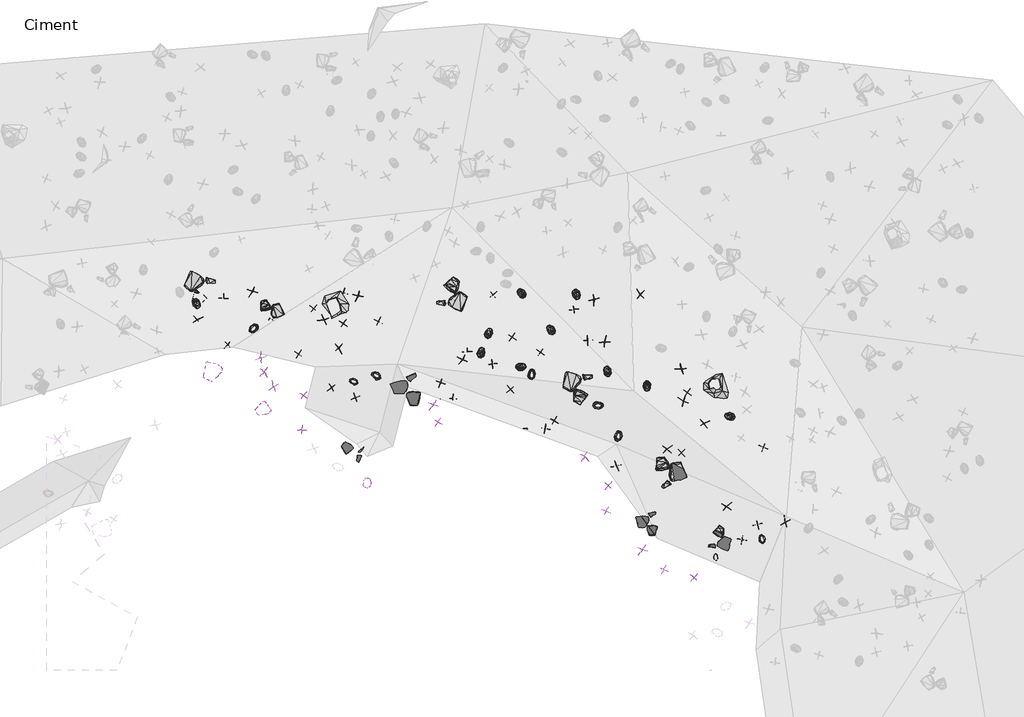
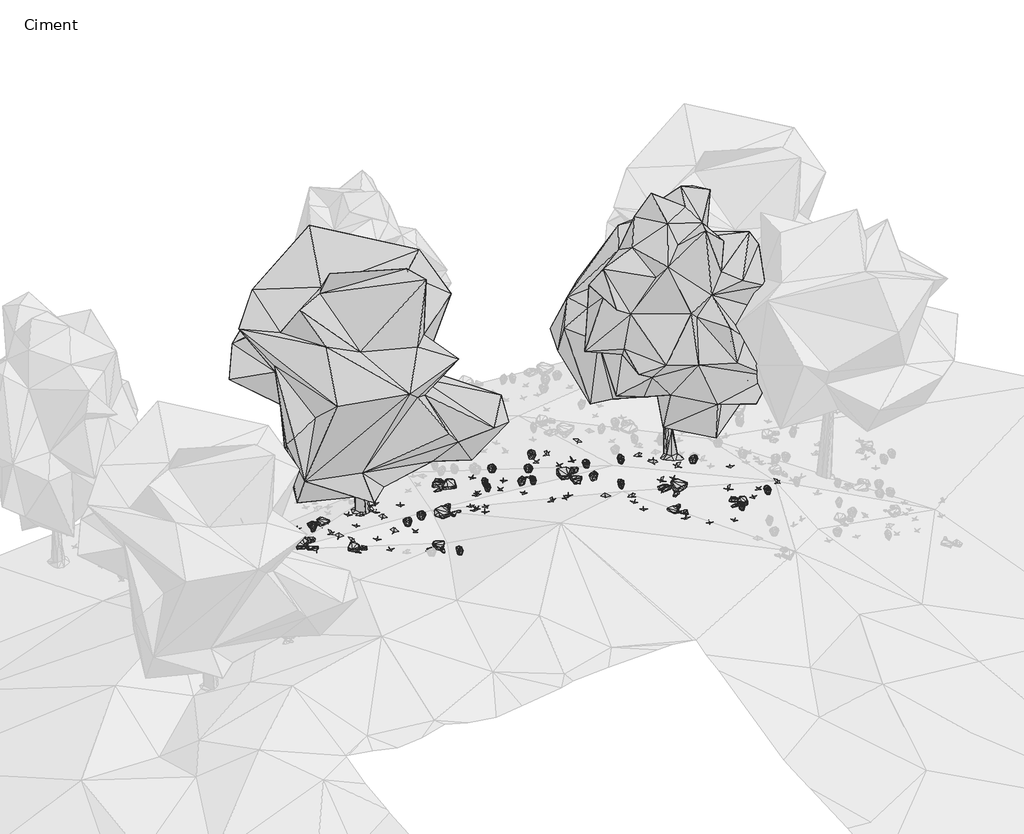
# One storey, part 25 of 30: 89 geographic elements.
"""IFC4 building model written with IfcOpenShell, lengths in millimetres."""

from ifc_helpers import new_model, si_unit, origin, place, context, project, spatial, transform, mapped, element, save
from components import enscape_assetdefinition_bush_025_fern_enscape_5718bf32, enscape_assetdefinition_bush_054_plant_09_version_2_enscape_7b546a12, enscape_assetdefinition_bush_062_plant_09_version_3_enscape_ccf8c8eb, enscape_assetdefinition_deciduous_tree_024_elm_enscape_8f9d8ef3, enscape_assetdefinition_deciduous_tree_029_elm_enscape_e4c49baf, enscape_assetdefinition_stone_013_group_enscape_516da325, enscape_assetdefinition_stone_013_group_enscape_db9b3e91

model = new_model("IFC4")

# Units and contexts
model_context = context("Model", 3, world=origin())
ifc_project = project(units=[si_unit("LENGTHUNIT", "METRE", prefix="MILLI")], contexts=[model_context])

# Site, building, storey
site = spatial("IfcSite", under=ifc_project)
building = spatial("IfcBuilding", under=site)
storey = spatial("IfcBuildingStorey", under=building, Name="Ciment", Elevation=-1500.0)

# Geographic elements
placement = place(None, origin())
enscape_assetdefinition_bush_025_fern_enscape_shape = enscape_assetdefinition_bush_025_fern_enscape_5718bf32(model_context)
element("IfcGeographicElement", 1, ObjectType="Enscape AssetDefinition - Bush 025 Fern : Enscape AssetDefinition - Bush 025 Fern", at=placement, inside=storey, context=model_context, shape_type="MappedRepresentation", body=[
    mapped(enscape_assetdefinition_bush_025_fern_enscape_shape, transform((7589.7655487, 14292.3851013, -694.9532032), x_axis=(0.09851831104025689, 0.9951352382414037, 0.0), y_axis=(-0.9951352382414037, 0.09851831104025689, 0.0), z_axis=(0.0, 0.0, 1.0))),
])
element("IfcGeographicElement", 2, ObjectType="Enscape AssetDefinition - Bush 025 Fern : Enscape AssetDefinition - Bush 025 Fern", at=placement, inside=storey, context=model_context, shape_type="MappedRepresentation", body=[
    mapped(enscape_assetdefinition_bush_025_fern_enscape_shape, transform((13640.039444, 9015.0632858, -316.6663647), x_axis=(-0.12648379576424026, 0.9919686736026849, 0.0), y_axis=(-0.9919686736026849, -0.12648379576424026, 0.0), z_axis=(0.0, 0.0, 1.0))),
])
element("IfcGeographicElement", 3, ObjectType="Enscape AssetDefinition - Bush 025 Fern : Enscape AssetDefinition - Bush 025 Fern", at=placement, inside=storey, context=model_context, shape_type="MappedRepresentation", body=[
    mapped(enscape_assetdefinition_bush_025_fern_enscape_shape, transform((4648.8132477, 10932.4960709, -27.317524), x_axis=(-0.11346638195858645, 0.9935418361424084, 0.0), y_axis=(-0.9935418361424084, -0.11346638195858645, 0.0), z_axis=(0.0, 0.0, 1.0))),
])
element("IfcGeographicElement", 4, ObjectType="Enscape AssetDefinition - Bush 025 Fern : Enscape AssetDefinition - Bush 025 Fern", at=placement, inside=storey, context=model_context, shape_type="MappedRepresentation", body=[
    mapped(enscape_assetdefinition_bush_025_fern_enscape_shape, transform((7789.2131805, 14791.4638519, -881.513238), x_axis=(0.2730954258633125, 0.9619869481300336, 0.0), y_axis=(-0.9619869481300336, 0.2730954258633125, 0.0), z_axis=(0.0, 0.0, 1.0))),
])
element("IfcGeographicElement", 5, ObjectType="Enscape AssetDefinition - Bush 025 Fern : Enscape AssetDefinition - Bush 025 Fern", at=placement, inside=storey, context=model_context, shape_type="MappedRepresentation", body=[
    mapped(enscape_assetdefinition_bush_025_fern_enscape_shape, transform((8618.7496185, 13920.3662872, -604.5726538), x_axis=(0.9697155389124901, 0.24423712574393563, 0.0), y_axis=(-0.24423712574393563, 0.9697155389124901, 0.0), z_axis=(0.0, 0.0, 1.0))),
])
element("IfcGeographicElement", 6, ObjectType="Enscape AssetDefinition - Bush 025 Fern : Enscape AssetDefinition - Bush 025 Fern", at=placement, inside=storey, context=model_context, shape_type="MappedRepresentation", body=[
    mapped(enscape_assetdefinition_bush_025_fern_enscape_shape, transform((4291.5439606, 13543.7164307, -402.7612209), x_axis=(-0.944301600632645, 0.32908127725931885, 0.0), y_axis=(-0.32908127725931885, -0.944301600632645, 0.0), z_axis=(0.0, 0.0, 1.0))),
])
element("IfcGeographicElement", 7, ObjectType="Enscape AssetDefinition - Bush 025 Fern : Enscape AssetDefinition - Bush 025 Fern", at=placement, inside=storey, context=model_context, shape_type="MappedRepresentation", body=[
    mapped(enscape_assetdefinition_bush_025_fern_enscape_shape, transform((8893.7168121, 13736.1078262, -550.1061678), x_axis=(0.017206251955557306, 0.9998519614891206, 0.0), y_axis=(-0.9998519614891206, 0.017206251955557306, 0.0), z_axis=(0.0, 0.0, 1.0))),
])
element("IfcGeographicElement", 8, ObjectType="Enscape AssetDefinition - Bush 025 Fern : Enscape AssetDefinition - Bush 025 Fern", at=placement, inside=storey, context=model_context, shape_type="MappedRepresentation", body=[
    mapped(enscape_assetdefinition_bush_025_fern_enscape_shape, transform((10611.6847992, 12921.5192795, -499.9998808), x_axis=(0.9974274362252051, 0.07168339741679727, 0.0), y_axis=(-0.07168339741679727, 0.9974274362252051, 0.0), z_axis=(0.0, 0.0, 1.0))),
])
element("IfcGeographicElement", 9, ObjectType="Enscape AssetDefinition - Bush 025 Fern : Enscape AssetDefinition - Bush 025 Fern", at=placement, inside=storey, context=model_context, shape_type="MappedRepresentation", body=[
    mapped(enscape_assetdefinition_bush_025_fern_enscape_shape, transform((13996.7298508, 12645.606041, -897.7286816), x_axis=(-0.9960835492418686, 0.08841698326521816, 0.0), y_axis=(-0.08841698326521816, -0.9960835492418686, 0.0), z_axis=(0.0, 0.0, 1.0))),
])
element("IfcGeographicElement", 10, ObjectType="Enscape AssetDefinition - Bush 025 Fern : Enscape AssetDefinition - Bush 025 Fern", at=placement, inside=storey, context=model_context, shape_type="MappedRepresentation", body=[
    mapped(enscape_assetdefinition_bush_025_fern_enscape_shape, transform((237.3542786, 15547.712326, -1001.2573004), x_axis=(0.49297649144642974, -0.870042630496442, 0.0), y_axis=(0.870042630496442, 0.49297649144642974, 0.0), z_axis=(0.0, 0.0, 1.0))),
])
element("IfcGeographicElement", 11, ObjectType="Enscape AssetDefinition - Bush 025 Fern : Enscape AssetDefinition - Bush 025 Fern", at=placement, inside=storey, context=model_context, shape_type="MappedRepresentation", body=[
    mapped(enscape_assetdefinition_bush_025_fern_enscape_shape, transform((9387.3577118, 14886.4269257, -981.5084934), x_axis=(-0.7025967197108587, 0.7115882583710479, 0.0), y_axis=(-0.7115882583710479, -0.7025967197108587, 0.0), z_axis=(0.0, 0.0, 1.0))),
])
element("IfcGeographicElement", 12, ObjectType="Enscape AssetDefinition - Bush 025 Fern : Enscape AssetDefinition - Bush 025 Fern", at=placement, inside=storey, context=model_context, shape_type="MappedRepresentation", body=[
    mapped(enscape_assetdefinition_bush_025_fern_enscape_shape, transform((14832.1781158, 9485.0530624, -415.0358438), x_axis=(-0.2552962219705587, 0.9668628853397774, 0.0), y_axis=(-0.9668628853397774, -0.2552962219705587, 0.0), z_axis=(0.0, 0.0, 1.0))),
])
element("IfcGeographicElement", 13, ObjectType="Enscape AssetDefinition - Bush 025 Fern : Enscape AssetDefinition - Bush 025 Fern", at=placement, inside=storey, context=model_context, shape_type="MappedRepresentation", body=[
    mapped(enscape_assetdefinition_bush_025_fern_enscape_shape, transform((1710.3881836, 14913.8298035, -541.7901278), x_axis=(-0.6577944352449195, -0.7531975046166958, 0.0), y_axis=(0.7531975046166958, -0.6577944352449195, 0.0), z_axis=(0.0, 0.0, 1.0))),
])
element("IfcGeographicElement", 14, ObjectType="Enscape AssetDefinition - Bush 025 Fern : Enscape AssetDefinition - Bush 025 Fern", at=placement, inside=storey, context=model_context, shape_type="MappedRepresentation", body=[
    mapped(enscape_assetdefinition_bush_025_fern_enscape_shape, transform((8627.664566, 15825.4947662, -1285.6221199), x_axis=(-0.7099960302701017, 0.7042056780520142, 0.0), y_axis=(-0.7042056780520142, -0.7099960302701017, 0.0), z_axis=(0.0, 0.0, 1.0))),
])
element("IfcGeographicElement", 15, ObjectType="Enscape AssetDefinition - Bush 025 Fern : Enscape AssetDefinition - Bush 025 Fern", at=placement, inside=storey, context=model_context, shape_type="MappedRepresentation", body=[
    mapped(enscape_assetdefinition_bush_025_fern_enscape_shape, transform((10040.8573151, 15785.0799561, -1236.7181778), x_axis=(0.4224905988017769, -0.90636730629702, 0.0), y_axis=(0.90636730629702, 0.4224905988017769, 0.0), z_axis=(0.0, 0.0, 1.0))),
])
element("IfcGeographicElement", 16, ObjectType="Enscape AssetDefinition - Bush 025 Fern : Enscape AssetDefinition - Bush 025 Fern", at=placement, inside=storey, context=model_context, shape_type="MappedRepresentation", body=[
    mapped(enscape_assetdefinition_bush_025_fern_enscape_shape, transform((10844.0494537, 13815.8960342, -659.2383385), x_axis=(-0.31124041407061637, 0.9503312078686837, 0.0), y_axis=(-0.9503312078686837, -0.31124041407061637, 0.0), z_axis=(0.0, 0.0, 1.0))),
])
element("IfcGeographicElement", 17, ObjectType="Enscape AssetDefinition - Bush 025 Fern : Enscape AssetDefinition - Bush 025 Fern", at=placement, inside=storey, context=model_context, shape_type="MappedRepresentation", body=[
    mapped(enscape_assetdefinition_bush_025_fern_enscape_shape, transform((4874.3686676, 13698.6455917, -455.0367594), x_axis=(-0.8581965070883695, 0.5133212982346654, 0.0), y_axis=(-0.5133212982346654, -0.8581965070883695, 0.0), z_axis=(0.0, 0.0, 1.0))),
])
element("IfcGeographicElement", 18, ObjectType="Enscape AssetDefinition - Bush 025 Fern : Enscape AssetDefinition - Bush 025 Fern", at=placement, inside=storey, context=model_context, shape_type="MappedRepresentation", body=[
    mapped(enscape_assetdefinition_bush_025_fern_enscape_shape, transform((11860.2962494, 13417.9868698, -616.1327362), x_axis=(0.10209197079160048, -0.9947749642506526, 0.0), y_axis=(0.9947749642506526, 0.10209197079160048, 0.0), z_axis=(0.0, 0.0, 1.0))),
])
element("IfcGeographicElement", 19, ObjectType="Enscape AssetDefinition - Bush 025 Fern : Enscape AssetDefinition - Bush 025 Fern", at=placement, inside=storey, context=model_context, shape_type="MappedRepresentation", body=[
    mapped(enscape_assetdefinition_bush_025_fern_enscape_shape, transform((11129.5261383, 12142.7249908, -499.9998808), x_axis=(0.1668868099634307, 0.9859760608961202, 0.0), y_axis=(-0.9859760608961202, 0.1668868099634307, 0.0), z_axis=(0.0, 0.0, 1.0))),
])
enscape_assetdefinition_bush_054_plant_09_version_2_enscape_shape = enscape_assetdefinition_bush_054_plant_09_version_2_enscape_7b546a12(model_context)
element("IfcGeographicElement", 20, ObjectType="Enscape AssetDefinition - Bush 054 Plant 09, Version 2 : Enscape AssetDefinition - Bush 054 Plant 09, Version 2", at=placement, inside=storey, context=model_context, shape_type="MappedRepresentation", body=[
    mapped(enscape_assetdefinition_bush_054_plant_09_version_2_enscape_shape, transform((6542.1276093, 13505.6858063, -467.0318365), x_axis=(0.2809636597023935, 0.9597184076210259, 0.0), y_axis=(-0.9597184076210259, 0.2809636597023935, 0.0), z_axis=(0.0, 0.0, 1.0))),
])
element("IfcGeographicElement", 21, ObjectType="Enscape AssetDefinition - Bush 054 Plant 09, Version 2 : Enscape AssetDefinition - Bush 054 Plant 09, Version 2", at=placement, inside=storey, context=model_context, shape_type="MappedRepresentation", body=[
    mapped(enscape_assetdefinition_bush_054_plant_09_version_2_enscape_shape, transform((4933.4125519, 15096.0016251, -836.8061781), x_axis=(-0.3785341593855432, -0.9255873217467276, 0.0), y_axis=(0.9255873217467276, -0.3785341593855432, 0.0), z_axis=(0.0, 0.0, 1.0))),
])
element("IfcGeographicElement", 22, ObjectType="Enscape AssetDefinition - Bush 054 Plant 09, Version 2 : Enscape AssetDefinition - Bush 054 Plant 09, Version 2", at=placement, inside=storey, context=model_context, shape_type="MappedRepresentation", body=[
    mapped(enscape_assetdefinition_bush_054_plant_09_version_2_enscape_shape, transform((13075.8190155, 8479.7544479, -238.6083603), x_axis=(0.7839510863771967, -0.6208225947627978, 0.0), y_axis=(0.6208225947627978, 0.7839510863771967, 0.0), z_axis=(0.0, 0.0, 1.0))),
])
element("IfcGeographicElement", 23, ObjectType="Enscape AssetDefinition - Bush 054 Plant 09, Version 2 : Enscape AssetDefinition - Bush 054 Plant 09, Version 2", at=placement, inside=storey, context=model_context, shape_type="MappedRepresentation", body=[
    mapped(enscape_assetdefinition_bush_054_plant_09_version_2_enscape_shape, transform((3260.6451511, 15430.6354523, -814.2061234), x_axis=(-0.5861582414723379, -0.8101965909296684, 0.0), y_axis=(0.8101965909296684, -0.5861582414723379, 0.0), z_axis=(0.0, 0.0, 1.0))),
])
element("IfcGeographicElement", 24, ObjectType="Enscape AssetDefinition - Bush 054 Plant 09, Version 2 : Enscape AssetDefinition - Bush 054 Plant 09, Version 2", at=placement, inside=storey, context=model_context, shape_type="MappedRepresentation", body=[
    mapped(enscape_assetdefinition_bush_054_plant_09_version_2_enscape_shape, transform((12302.816391, 8687.8404617, -182.1906567), x_axis=(-0.9374443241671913, 0.3481352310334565, 0.0), y_axis=(-0.3481352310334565, -0.9374443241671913, 0.0), z_axis=(0.0, 0.0, 1.0))),
])
element("IfcGeographicElement", 25, ObjectType="Enscape AssetDefinition - Bush 054 Plant 09, Version 2 : Enscape AssetDefinition - Bush 054 Plant 09, Version 2", at=placement, inside=storey, context=model_context, shape_type="MappedRepresentation", body=[
    mapped(enscape_assetdefinition_bush_054_plant_09_version_2_enscape_shape, transform((14727.4837494, 9851.307869, -447.4294186), x_axis=(-0.2820657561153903, 0.9593950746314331, 0.0), y_axis=(-0.9593950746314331, -0.2820657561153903, 0.0), z_axis=(0.0, 0.0, 1.0))),
])
element("IfcGeographicElement", 26, ObjectType="Enscape AssetDefinition - Bush 054 Plant 09, Version 2 : Enscape AssetDefinition - Bush 054 Plant 09, Version 2", at=placement, inside=storey, context=model_context, shape_type="MappedRepresentation", body=[
    mapped(enscape_assetdefinition_bush_054_plant_09_version_2_enscape_shape, transform((2871.2825775, 14246.80233, -376.1594296), x_axis=(0.8569529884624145, -0.5153945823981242, 0.0), y_axis=(0.5153945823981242, 0.8569529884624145, 0.0), z_axis=(0.0, 0.0, 1.0))),
])
element("IfcGeographicElement", 27, ObjectType="Enscape AssetDefinition - Bush 054 Plant 09, Version 2 : Enscape AssetDefinition - Bush 054 Plant 09, Version 2", at=placement, inside=storey, context=model_context, shape_type="MappedRepresentation", body=[
    mapped(enscape_assetdefinition_bush_054_plant_09_version_2_enscape_shape, transform((2958.0705166, 12296.4468002, -123.5542297), x_axis=(-0.013521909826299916, -0.999908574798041, 0.0), y_axis=(0.999908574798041, -0.013521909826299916, 0.0), z_axis=(0.0, 0.0, 1.0))),
])
element("IfcGeographicElement", 28, ObjectType="Enscape AssetDefinition - Bush 054 Plant 09, Version 2 : Enscape AssetDefinition - Bush 054 Plant 09, Version 2", at=placement, inside=storey, context=model_context, shape_type="MappedRepresentation", body=[
    mapped(enscape_assetdefinition_bush_054_plant_09_version_2_enscape_shape, transform((14320.9285736, 9455.8124542, -390.1997805), x_axis=(0.10088961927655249, 0.9948976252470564, 0.0), y_axis=(-0.9948976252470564, 0.10088961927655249, 0.0), z_axis=(0.0, 0.0, 1.0))),
])
element("IfcGeographicElement", 29, ObjectType="Enscape AssetDefinition - Bush 054 Plant 09, Version 2 : Enscape AssetDefinition - Bush 054 Plant 09, Version 2", at=placement, inside=storey, context=model_context, shape_type="MappedRepresentation", body=[
    mapped(enscape_assetdefinition_bush_054_plant_09_version_2_enscape_shape, transform((7880.3501129, 14001.6860962, -603.102088), x_axis=(-0.9817175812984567, -0.1903433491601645, 0.0), y_axis=(0.1903433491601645, -0.9817175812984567, 0.0), z_axis=(0.0, 0.0, 1.0))),
])
element("IfcGeographicElement", 30, ObjectType="Enscape AssetDefinition - Bush 054 Plant 09, Version 2 : Enscape AssetDefinition - Bush 054 Plant 09, Version 2", at=placement, inside=storey, context=model_context, shape_type="MappedRepresentation", body=[
    mapped(enscape_assetdefinition_bush_054_plant_09_version_2_enscape_shape, transform((4335.729599, 13126.0004044, -417.3563719), x_axis=(0.39361905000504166, -0.9192736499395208, 0.0), y_axis=(0.9192736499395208, 0.39361905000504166, 0.0), z_axis=(0.0, 0.0, 1.0))),
])
element("IfcGeographicElement", 31, ObjectType="Enscape AssetDefinition - Bush 054 Plant 09, Version 2 : Enscape AssetDefinition - Bush 054 Plant 09, Version 2", at=placement, inside=storey, context=model_context, shape_type="MappedRepresentation", body=[
    mapped(enscape_assetdefinition_bush_054_plant_09_version_2_enscape_shape, transform((7897.1996307, 15779.7832489, -1239.0925884), x_axis=(-0.6776390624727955, 0.7353946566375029, 0.0), y_axis=(-0.7353946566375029, -0.6776390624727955, 0.0), z_axis=(0.0, 0.0, 1.0))),
])
element("IfcGeographicElement", 32, ObjectType="Enscape AssetDefinition - Bush 054 Plant 09, Version 2 : Enscape AssetDefinition - Bush 054 Plant 09, Version 2", at=placement, inside=storey, context=model_context, shape_type="MappedRepresentation", body=[
    mapped(enscape_assetdefinition_bush_054_plant_09_version_2_enscape_shape, transform((4027.8110504, 15046.1101532, -745.3172207), x_axis=(-0.5286896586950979, -0.8488152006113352, 0.0), y_axis=(0.8488152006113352, -0.5286896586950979, 0.0), z_axis=(0.0, 0.0, 1.0))),
])
element("IfcGeographicElement", 33, ObjectType="Enscape AssetDefinition - Bush 054 Plant 09, Version 2 : Enscape AssetDefinition - Bush 054 Plant 09, Version 2", at=placement, inside=storey, context=model_context, shape_type="MappedRepresentation", body=[
    mapped(enscape_assetdefinition_bush_054_plant_09_version_2_enscape_shape, transform((4037.89711, 15839.632988, -1018.3326006), x_axis=(-0.9663092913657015, 0.25738366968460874, 0.0), y_axis=(-0.25738366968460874, -0.9663092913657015, 0.0), z_axis=(0.0, 0.0, 1.0))),
])
element("IfcGeographicElement", 34, ObjectType="Enscape AssetDefinition - Bush 054 Plant 09, Version 2 : Enscape AssetDefinition - Bush 054 Plant 09, Version 2", at=placement, inside=storey, context=model_context, shape_type="MappedRepresentation", body=[
    mapped(enscape_assetdefinition_bush_054_plant_09_version_2_enscape_shape, transform((14871.8204498, 11839.6024704, -872.4639416), x_axis=(0.3116124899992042, 0.9502092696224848, 0.0), y_axis=(-0.9502092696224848, 0.3116124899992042, 0.0), z_axis=(0.0, 0.0, 1.0))),
])
element("IfcGeographicElement", 35, ObjectType="Enscape AssetDefinition - Bush 054 Plant 09, Version 2 : Enscape AssetDefinition - Bush 054 Plant 09, Version 2", at=placement, inside=storey, context=model_context, shape_type="MappedRepresentation", body=[
    mapped(enscape_assetdefinition_bush_054_plant_09_version_2_enscape_shape, transform((6848.1884003, 13098.5212326, -346.780777), x_axis=(0.999889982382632, -0.014833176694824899, 0.0), y_axis=(0.014833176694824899, 0.999889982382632, 0.0), z_axis=(0.0, 0.0, 1.0))),
])
element("IfcGeographicElement", 36, ObjectType="Enscape AssetDefinition - Bush 054 Plant 09, Version 2 : Enscape AssetDefinition - Bush 054 Plant 09, Version 2", at=placement, inside=storey, context=model_context, shape_type="MappedRepresentation", body=[
    mapped(enscape_assetdefinition_bush_054_plant_09_version_2_enscape_shape, transform((12751.5888214, 11709.2628479, -500.0002384), x_axis=(-0.6946039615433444, -0.719392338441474, 0.0), y_axis=(0.719392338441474, -0.6946039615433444, 0.0), z_axis=(0.0, 0.0, 1.0))),
])
element("IfcGeographicElement", 37, ObjectType="Enscape AssetDefinition - Bush 054 Plant 09, Version 2 : Enscape AssetDefinition - Bush 054 Plant 09, Version 2", at=placement, inside=storey, context=model_context, shape_type="MappedRepresentation", body=[
    mapped(enscape_assetdefinition_bush_054_plant_09_version_2_enscape_shape, transform((8342.6265717, 13335.5531693, -499.9998808), x_axis=(0.7217594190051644, 0.692144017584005, 0.0), y_axis=(-0.692144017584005, 0.7217594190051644, 0.0), z_axis=(0.0, 0.0, 1.0))),
])
element("IfcGeographicElement", 38, ObjectType="Enscape AssetDefinition - Bush 054 Plant 09, Version 2 : Enscape AssetDefinition - Bush 054 Plant 09, Version 2", at=placement, inside=storey, context=model_context, shape_type="MappedRepresentation", body=[
    mapped(enscape_assetdefinition_bush_054_plant_09_version_2_enscape_shape, transform((9116.3463593, 14290.3022766, -757.3173046), x_axis=(0.5344423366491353, 0.8452049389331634, 0.0), y_axis=(-0.8452049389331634, 0.5344423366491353, 0.0), z_axis=(0.0, 0.0, 1.0))),
])
element("IfcGeographicElement", 39, ObjectType="Enscape AssetDefinition - Bush 054 Plant 09, Version 2 : Enscape AssetDefinition - Bush 054 Plant 09, Version 2", at=placement, inside=storey, context=model_context, shape_type="MappedRepresentation", body=[
    mapped(enscape_assetdefinition_bush_054_plant_09_version_2_enscape_shape, transform((9246.2062836, 12330.2946091, -391.4464712), x_axis=(-0.9946375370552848, 0.10342228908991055, 0.0), y_axis=(-0.10342228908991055, -0.9946375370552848, 0.0), z_axis=(0.0, 0.0, 1.0))),
])
element("IfcGeographicElement", 40, ObjectType="Enscape AssetDefinition - Bush 054 Plant 09, Version 2 : Enscape AssetDefinition - Bush 054 Plant 09, Version 2", at=placement, inside=storey, context=model_context, shape_type="MappedRepresentation", body=[
    mapped(enscape_assetdefinition_bush_054_plant_09_version_2_enscape_shape, transform((3002.5653839, 13184.7429276, -287.5521183), x_axis=(-0.5820002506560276, -0.8131886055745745, 0.0), y_axis=(0.8131886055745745, -0.5820002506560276, 0.0), z_axis=(0.0, 0.0, 1.0))),
])
element("IfcGeographicElement", 41, ObjectType="Enscape AssetDefinition - Bush 054 Plant 09, Version 2 : Enscape AssetDefinition - Bush 054 Plant 09, Version 2", at=placement, inside=storey, context=model_context, shape_type="MappedRepresentation", body=[
    mapped(enscape_assetdefinition_bush_054_plant_09_version_2_enscape_shape, transform((9478.4984589, 12531.7811966, -499.9998808), x_axis=(-0.886284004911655, 0.46314216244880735, 0.0), y_axis=(-0.46314216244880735, -0.886284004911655, 0.0), z_axis=(0.0, 0.0, 1.0))),
])
element("IfcGeographicElement", 42, ObjectType="Enscape AssetDefinition - Bush 054 Plant 09, Version 2 : Enscape AssetDefinition - Bush 054 Plant 09, Version 2", at=placement, inside=storey, context=model_context, shape_type="MappedRepresentation", body=[
    mapped(enscape_assetdefinition_bush_054_plant_09_version_2_enscape_shape, transform((10810.9226227, 10201.1051178, -71.8126297), x_axis=(-0.37878717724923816, -0.9254838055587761, 0.0), y_axis=(0.9254838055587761, -0.37878717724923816, 0.0), z_axis=(0.0, 0.0, 1.0))),
])
element("IfcGeographicElement", 43, ObjectType="Enscape AssetDefinition - Bush 054 Plant 09, Version 2 : Enscape AssetDefinition - Bush 054 Plant 09, Version 2", at=placement, inside=storey, context=model_context, shape_type="MappedRepresentation", body=[
    mapped(enscape_assetdefinition_bush_054_plant_09_version_2_enscape_shape, transform((10862.616539, 10853.0950546, -220.5715179), x_axis=(0.7841515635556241, -0.6205693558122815, 0.0), y_axis=(0.6205693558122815, 0.7841515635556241, 0.0), z_axis=(0.0, 0.0, 1.0))),
])
element("IfcGeographicElement", 44, ObjectType="Enscape AssetDefinition - Bush 054 Plant 09, Version 2 : Enscape AssetDefinition - Bush 054 Plant 09, Version 2", at=placement, inside=storey, context=model_context, shape_type="MappedRepresentation", body=[
    mapped(enscape_assetdefinition_bush_054_plant_09_version_2_enscape_shape, transform((8390.3512955, 14688.0540848, -869.4169521), x_axis=(-0.872144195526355, 0.48924891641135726, 0.0), y_axis=(-0.48924891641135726, -0.872144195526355, 0.0), z_axis=(0.0, 0.0, 1.0))),
])
element("IfcGeographicElement", 45, ObjectType="Enscape AssetDefinition - Bush 054 Plant 09, Version 2 : Enscape AssetDefinition - Bush 054 Plant 09, Version 2", at=placement, inside=storey, context=model_context, shape_type="MappedRepresentation", body=[
    mapped(enscape_assetdefinition_bush_054_plant_09_version_2_enscape_shape, transform((932.6610565, 15695.5184937, -1040.9846306), x_axis=(0.01288521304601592, -0.9999169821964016, 0.0), y_axis=(0.9999169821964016, 0.01288521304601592, 0.0), z_axis=(0.0, 0.0, 1.0))),
])
element("IfcGeographicElement", 46, ObjectType="Enscape AssetDefinition - Bush 054 Plant 09, Version 2 : Enscape AssetDefinition - Bush 054 Plant 09, Version 2", at=placement, inside=storey, context=model_context, shape_type="MappedRepresentation", body=[
    mapped(enscape_assetdefinition_bush_054_plant_09_version_2_enscape_shape, transform((7233.6864471, 14308.2323074, -685.8953238), x_axis=(-0.10281455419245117, 0.9947005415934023, 0.0), y_axis=(-0.9947005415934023, -0.10281455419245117, 0.0), z_axis=(0.0, 0.0, 1.0))),
])
element("IfcGeographicElement", 47, ObjectType="Enscape AssetDefinition - Bush 054 Plant 09, Version 2 : Enscape AssetDefinition - Bush 054 Plant 09, Version 2", at=placement, inside=storey, context=model_context, shape_type="MappedRepresentation", body=[
    mapped(enscape_assetdefinition_bush_054_plant_09_version_2_enscape_shape, transform((10339.6930695, 14608.0598831, -910.0506306), x_axis=(-0.9945978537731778, -0.10380322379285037, 0.0), y_axis=(0.10380322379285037, -0.9945978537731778, 0.0), z_axis=(0.0, 0.0, 1.0))),
])
element("IfcGeographicElement", 48, ObjectType="Enscape AssetDefinition - Bush 054 Plant 09, Version 2 : Enscape AssetDefinition - Bush 054 Plant 09, Version 2", at=placement, inside=storey, context=model_context, shape_type="MappedRepresentation", body=[
    mapped(enscape_assetdefinition_bush_054_plant_09_version_2_enscape_shape, transform((6527.3685455, 13093.1758881, -296.7506647), x_axis=(0.6664119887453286, -0.7455837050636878, 0.0), y_axis=(0.7455837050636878, 0.6664119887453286, 0.0), z_axis=(0.0, 0.0, 1.0))),
])
element("IfcGeographicElement", 49, ObjectType="Enscape AssetDefinition - Bush 054 Plant 09, Version 2 : Enscape AssetDefinition - Bush 054 Plant 09, Version 2", at=placement, inside=storey, context=model_context, shape_type="MappedRepresentation", body=[
    mapped(enscape_assetdefinition_bush_054_plant_09_version_2_enscape_shape, transform((12906.8660736, 13264.5730972, -818.6770678), x_axis=(-0.5440146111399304, -0.8390757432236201, 0.0), y_axis=(0.8390757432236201, -0.5440146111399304, 0.0), z_axis=(0.0, 0.0, 1.0))),
])
element("IfcGeographicElement", 50, ObjectType="Enscape AssetDefinition - Bush 054 Plant 09, Version 2 : Enscape AssetDefinition - Bush 054 Plant 09, Version 2", at=placement, inside=storey, context=model_context, shape_type="MappedRepresentation", body=[
    mapped(enscape_assetdefinition_bush_054_plant_09_version_2_enscape_shape, transform((6473.8826752, 12496.8776703, -45.8076), x_axis=(-0.888229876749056, 0.4593992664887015, 0.0), y_axis=(-0.4593992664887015, -0.888229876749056, 0.0), z_axis=(0.0, 0.0, 1.0))),
])
element("IfcGeographicElement", 51, ObjectType="Enscape AssetDefinition - Bush 054 Plant 09, Version 2 : Enscape AssetDefinition - Bush 054 Plant 09, Version 2", at=placement, inside=storey, context=model_context, shape_type="MappedRepresentation", body=[
    mapped(enscape_assetdefinition_bush_054_plant_09_version_2_enscape_shape, transform((9984.4713211, 15395.9674835, -1136.9222403), x_axis=(-0.2017555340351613, 0.9794359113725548, 0.0), y_axis=(-0.9794359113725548, -0.2017555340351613, 0.0), z_axis=(0.0, 0.0, 1.0))),
])
enscape_assetdefinition_bush_062_plant_09_version_3_enscape_shape = enscape_assetdefinition_bush_062_plant_09_version_3_enscape_ccf8c8eb(model_context)
element("IfcGeographicElement", 52, ObjectType="Enscape AssetDefinition - Bush 062 Plant 09, Version 3 : Enscape AssetDefinition - Bush 062 Plant 09, Version 3", at=placement, inside=storey, context=model_context, shape_type="MappedRepresentation", body=[
    mapped(enscape_assetdefinition_bush_062_plant_09_version_3_enscape_shape, transform((1679.9697876, 15854.9518585, -1084.0117931), x_axis=(-0.983356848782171, 0.1816846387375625, 0.0), y_axis=(-0.1816846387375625, -0.983356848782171, 0.0), z_axis=(0.0, 0.0, 1.0))),
])
element("IfcGeographicElement", 53, ObjectType="Enscape AssetDefinition - Bush 062 Plant 09, Version 3 : Enscape AssetDefinition - Bush 062 Plant 09, Version 3", at=placement, inside=storey, context=model_context, shape_type="MappedRepresentation", body=[
    mapped(enscape_assetdefinition_bush_062_plant_09_version_3_enscape_shape, transform((3915.4033661, 14395.5364227, -512.9303932), x_axis=(-0.6329278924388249, -0.7742107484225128, 0.0), y_axis=(0.7742107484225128, -0.6329278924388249, 0.0), z_axis=(0.0, 0.0, 1.0))),
])
element("IfcGeographicElement", 54, ObjectType="Enscape AssetDefinition - Bush 062 Plant 09, Version 3 : Enscape AssetDefinition - Bush 062 Plant 09, Version 3", at=placement, inside=storey, context=model_context, shape_type="MappedRepresentation", body=[
    mapped(enscape_assetdefinition_bush_062_plant_09_version_3_enscape_shape, transform((13925.6572723, 10323.1172562, -460.5995417), x_axis=(0.8936510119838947, -0.4487625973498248, 0.0), y_axis=(0.4487625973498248, 0.8936510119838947, 0.0), z_axis=(0.0, 0.0, 1.0))),
])
element("IfcGeographicElement", 55, ObjectType="Enscape AssetDefinition - Bush 062 Plant 09, Version 3 : Enscape AssetDefinition - Bush 062 Plant 09, Version 3", at=placement, inside=storey, context=model_context, shape_type="MappedRepresentation", body=[
    mapped(enscape_assetdefinition_bush_062_plant_09_version_3_enscape_shape, transform((13342.2908783, 12465.5504227, -691.819191), x_axis=(0.7179471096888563, -0.6960976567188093, 0.0), y_axis=(0.6960976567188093, 0.7179471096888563, 0.0), z_axis=(0.0, 0.0, 1.0))),
])
element("IfcGeographicElement", 56, ObjectType="Enscape AssetDefinition - Bush 062 Plant 09, Version 3 : Enscape AssetDefinition - Bush 062 Plant 09, Version 3", at=placement, inside=storey, context=model_context, shape_type="MappedRepresentation", body=[
    mapped(enscape_assetdefinition_bush_062_plant_09_version_3_enscape_shape, transform((2225.2559662, 13413.851738, -207.0450783), x_axis=(0.7992007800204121, 0.6010641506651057, 0.0), y_axis=(-0.6010641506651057, 0.7992007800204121, 0.0), z_axis=(0.0, 0.0, 1.0))),
])
element("IfcGeographicElement", 57, ObjectType="Enscape AssetDefinition - Bush 062 Plant 09, Version 3 : Enscape AssetDefinition - Bush 062 Plant 09, Version 3", at=placement, inside=storey, context=model_context, shape_type="MappedRepresentation", body=[
    mapped(enscape_assetdefinition_bush_062_plant_09_version_3_enscape_shape, transform((12388.1893158, 11804.8171997, -500.0002384), x_axis=(0.8362165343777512, -0.5483994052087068, 0.0), y_axis=(0.5483994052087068, 0.8362165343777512, 0.0), z_axis=(0.0, 0.0, 1.0))),
])
element("IfcGeographicElement", 58, ObjectType="Enscape AssetDefinition - Bush 062 Plant 09, Version 3 : Enscape AssetDefinition - Bush 062 Plant 09, Version 3", at=placement, inside=storey, context=model_context, shape_type="MappedRepresentation", body=[
    mapped(enscape_assetdefinition_bush_062_plant_09_version_3_enscape_shape, transform((4404.1500092, 15744.1911697, -1015.6753063), x_axis=(-0.9975628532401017, 0.06977358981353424, 0.0), y_axis=(-0.06977358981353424, -0.9975628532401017, 0.0), z_axis=(0.0, 0.0, 1.0))),
])
element("IfcGeographicElement", 59, ObjectType="Enscape AssetDefinition - Bush 062 Plant 09, Version 3 : Enscape AssetDefinition - Bush 062 Plant 09, Version 3", at=placement, inside=storey, context=model_context, shape_type="MappedRepresentation", body=[
    mapped(enscape_assetdefinition_bush_062_plant_09_version_3_enscape_shape, transform((1897.6688385, 14165.1248932, -268.1804895), x_axis=(0.9306749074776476, 0.36584725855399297, 0.0), y_axis=(-0.36584725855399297, 0.9306749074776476, 0.0), z_axis=(0.0, 0.0, 1.0))),
])
element("IfcGeographicElement", 60, ObjectType="Enscape AssetDefinition - Bush 062 Plant 09, Version 3 : Enscape AssetDefinition - Bush 062 Plant 09, Version 3", at=placement, inside=storey, context=model_context, shape_type="MappedRepresentation", body=[
    mapped(enscape_assetdefinition_bush_062_plant_09_version_3_enscape_shape, transform((12794.7750092, 13040.6484604, -727.9613018), x_axis=(0.15358781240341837, 0.9881350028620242, 0.0), y_axis=(-0.9881350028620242, 0.15358781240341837, 0.0), z_axis=(0.0, 0.0, 1.0))),
])
element("IfcGeographicElement", 61, ObjectType="Enscape AssetDefinition - Bush 062 Plant 09, Version 3 : Enscape AssetDefinition - Bush 062 Plant 09, Version 3", at=placement, inside=storey, context=model_context, shape_type="MappedRepresentation", body=[
    mapped(enscape_assetdefinition_bush_062_plant_09_version_3_enscape_shape, transform((11685.956955, 15799.0264893, -1221.7621803), x_axis=(0.5738992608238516, 0.8189259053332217, 0.0), y_axis=(-0.8189259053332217, 0.5738992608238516, 0.0), z_axis=(0.0, 0.0, 1.0))),
])
element("IfcGeographicElement", 62, ObjectType="Enscape AssetDefinition - Bush 062 Plant 09, Version 3 : Enscape AssetDefinition - Bush 062 Plant 09, Version 3", at=placement, inside=storey, context=model_context, shape_type="MappedRepresentation", body=[
    mapped(enscape_assetdefinition_bush_062_plant_09_version_3_enscape_shape, transform((3734.6668243, 13374.6910095, -353.3324003), x_axis=(-0.679523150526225, -0.7336540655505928, 0.0), y_axis=(0.7336540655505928, -0.679523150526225, 0.0), z_axis=(0.0, 0.0, 1.0))),
])
element("IfcGeographicElement", 63, ObjectType="Enscape AssetDefinition - Bush 062 Plant 09, Version 3 : Enscape AssetDefinition - Bush 062 Plant 09, Version 3", at=placement, inside=storey, context=model_context, shape_type="MappedRepresentation", body=[
    mapped(enscape_assetdefinition_bush_062_plant_09_version_3_enscape_shape, transform((12739.988327, 13859.9510193, -948.8084316), x_axis=(-0.37955001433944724, 0.9251712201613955, 0.0), y_axis=(-0.9251712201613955, -0.37955001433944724, 0.0), z_axis=(0.0, 0.0, 1.0))),
])
element("IfcGeographicElement", 64, ObjectType="Enscape AssetDefinition - Bush 062 Plant 09, Version 3 : Enscape AssetDefinition - Bush 062 Plant 09, Version 3", at=placement, inside=storey, context=model_context, shape_type="MappedRepresentation", body=[
    mapped(enscape_assetdefinition_bush_062_plant_09_version_3_enscape_shape, transform((274.2595673, 15143.5489655, -766.8540478), x_axis=(0.7232157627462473, -0.6906221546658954, 0.0), y_axis=(0.6906221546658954, 0.7232157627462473, 0.0), z_axis=(0.0, 0.0, 1.0))),
])
element("IfcGeographicElement", 65, ObjectType="Enscape AssetDefinition - Bush 062 Plant 09, Version 3 : Enscape AssetDefinition - Bush 062 Plant 09, Version 3", at=placement, inside=storey, context=model_context, shape_type="MappedRepresentation", body=[
    mapped(enscape_assetdefinition_bush_062_plant_09_version_3_enscape_shape, transform((6350.4691124, 12934.6628189, -205.7771683), x_axis=(-0.9588456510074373, 0.2839278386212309, 0.0), y_axis=(-0.2839278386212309, -0.9588456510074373, 0.0), z_axis=(0.0, 0.0, 1.0))),
])
element("IfcGeographicElement", 66, ObjectType="Enscape AssetDefinition - Bush 062 Plant 09, Version 3 : Enscape AssetDefinition - Bush 062 Plant 09, Version 3", at=placement, inside=storey, context=model_context, shape_type="MappedRepresentation", body=[
    mapped(enscape_assetdefinition_bush_062_plant_09_version_3_enscape_shape, transform((10265.1004791, 11596.6310501, -244.4870472), x_axis=(-0.37558986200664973, -0.9267859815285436, 0.0), y_axis=(0.9267859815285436, -0.37558986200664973, 0.0), z_axis=(0.0, 0.0, 1.0))),
])
element("IfcGeographicElement", 67, ObjectType="Enscape AssetDefinition - Bush 062 Plant 09, Version 3 : Enscape AssetDefinition - Bush 062 Plant 09, Version 3", at=placement, inside=storey, context=model_context, shape_type="MappedRepresentation", body=[
    mapped(enscape_assetdefinition_bush_062_plant_09_version_3_enscape_shape, transform((8762.2318268, 12313.3964539, -312.3722076), x_axis=(-0.9936399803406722, -0.11260368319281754, 0.0), y_axis=(0.11260368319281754, -0.9936399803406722, 0.0), z_axis=(0.0, 0.0, 1.0))),
])
element("IfcGeographicElement", 68, ObjectType="Enscape AssetDefinition - Bush 062 Plant 09, Version 3 : Enscape AssetDefinition - Bush 062 Plant 09, Version 3", at=placement, inside=storey, context=model_context, shape_type="MappedRepresentation", body=[
    mapped(enscape_assetdefinition_bush_062_plant_09_version_3_enscape_shape, transform((11747.3049164, 9192.4438477, -128.9794445), x_axis=(-0.9585910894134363, 0.2847861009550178, 0.0), y_axis=(-0.2847861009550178, -0.9585910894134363, 0.0), z_axis=(0.0, 0.0, 1.0))),
])
element("IfcGeographicElement", 69, ObjectType="Enscape AssetDefinition - Bush 062 Plant 09, Version 3 : Enscape AssetDefinition - Bush 062 Plant 09, Version 3", at=placement, inside=storey, context=model_context, shape_type="MappedRepresentation", body=[
    mapped(enscape_assetdefinition_bush_062_plant_09_version_3_enscape_shape, transform((10775.6214142, 14580.1019669, -879.638195), x_axis=(0.9897572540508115, 0.14276056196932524, 0.0), y_axis=(-0.14276056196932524, 0.9897572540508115, 0.0), z_axis=(0.0, 0.0, 1.0))),
])
element("IfcGeographicElement", 70, ObjectType="Enscape AssetDefinition - Bush 062 Plant 09, Version 3 : Enscape AssetDefinition - Bush 062 Plant 09, Version 3", at=placement, inside=storey, context=model_context, shape_type="MappedRepresentation", body=[
    mapped(enscape_assetdefinition_bush_062_plant_09_version_3_enscape_shape, transform((11065.5536652, 11354.2919159, -381.0597658), x_axis=(-0.4797469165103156, 0.8774069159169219, 0.0), y_axis=(-0.8774069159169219, -0.4797469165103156, 0.0), z_axis=(0.0, 0.0, 1.0))),
])
element("IfcGeographicElement", 71, ObjectType="Enscape AssetDefinition - Bush 062 Plant 09, Version 3 : Enscape AssetDefinition - Bush 062 Plant 09, Version 3", at=placement, inside=storey, context=model_context, shape_type="MappedRepresentation", body=[
    mapped(enscape_assetdefinition_bush_062_plant_09_version_3_enscape_shape, transform((3518.1102753, 15133.3837509, -733.3912849), x_axis=(-0.49573814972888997, 0.8684720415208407, 0.0), y_axis=(-0.8684720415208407, -0.49573814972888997, 0.0), z_axis=(0.0, 0.0, 1.0))),
])
element("IfcGeographicElement", 72, ObjectType="Enscape AssetDefinition - Bush 062 Plant 09, Version 3 : Enscape AssetDefinition - Bush 062 Plant 09, Version 3", at=placement, inside=storey, context=model_context, shape_type="MappedRepresentation", body=[
    mapped(enscape_assetdefinition_bush_062_plant_09_version_3_enscape_shape, transform((1062.412262, 14492.1169281, -341.7559862), x_axis=(-0.5107942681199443, -0.8597029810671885, 0.0), y_axis=(0.8597029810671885, -0.5107942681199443, 0.0), z_axis=(0.0, 0.0, 1.0))),
])
element("IfcGeographicElement", 73, ObjectType="Enscape AssetDefinition - Bush 062 Plant 09, Version 3 : Enscape AssetDefinition - Bush 062 Plant 09, Version 3", at=placement, inside=storey, context=model_context, shape_type="MappedRepresentation", body=[
    mapped(enscape_assetdefinition_bush_062_plant_09_version_3_enscape_shape, transform((7098.382473, 14097.9375839, -605.1664352), x_axis=(-0.9606659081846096, 0.2777067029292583, 0.0), y_axis=(-0.2777067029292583, -0.9606659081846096, 0.0), z_axis=(0.0, 0.0, 1.0))),
])
element("IfcGeographicElement", 74, ObjectType="Enscape AssetDefinition - Bush 062 Plant 09, Version 3 : Enscape AssetDefinition - Bush 062 Plant 09, Version 3", at=placement, inside=storey, context=model_context, shape_type="MappedRepresentation", body=[
    mapped(enscape_assetdefinition_bush_062_plant_09_version_3_enscape_shape, transform((1991.4644957, 13779.6201706, -175.4819155), x_axis=(-0.5408871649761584, -0.8410951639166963, 0.0), y_axis=(0.8410951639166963, -0.5408871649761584, 0.0), z_axis=(0.0, 0.0, 1.0))),
])
element("IfcGeographicElement", 75, ObjectType="Enscape AssetDefinition - Bush 062 Plant 09, Version 3 : Enscape AssetDefinition - Bush 062 Plant 09, Version 3", at=placement, inside=storey, context=model_context, shape_type="MappedRepresentation", body=[
    mapped(enscape_assetdefinition_bush_062_plant_09_version_3_enscape_shape, transform((10499.5059967, 15643.3067322, -1175.0444174), x_axis=(-0.9437997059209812, -0.3305179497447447, 0.0), y_axis=(0.3305179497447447, -0.9437997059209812, 0.0), z_axis=(0.0, 0.0, 1.0))),
])
element("IfcGeographicElement", 76, ObjectType="Enscape AssetDefinition - Bush 062 Plant 09, Version 3 : Enscape AssetDefinition - Bush 062 Plant 09, Version 3", at=placement, inside=storey, context=model_context, shape_type="MappedRepresentation", body=[
    mapped(enscape_assetdefinition_bush_062_plant_09_version_3_enscape_shape, transform((15427.5903702, 9924.2038727, -493.2011366), x_axis=(0.8385373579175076, 0.544844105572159, 0.0), y_axis=(-0.544844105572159, 0.8385373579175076, 0.0), z_axis=(0.0, 0.0, 1.0))),
])
enscape_assetdefinition_deciduous_tree_024_elm_enscape_shape = enscape_assetdefinition_deciduous_tree_024_elm_enscape_8f9d8ef3(model_context)
element("IfcGeographicElement", 77, ObjectType="Enscape AssetDefinition - Deciduous Tree 024 Elm : Enscape AssetDefinition - Deciduous Tree 024 Elm", at=placement, inside=storey, context=model_context, shape_type="MappedRepresentation", body=[
    mapped(enscape_assetdefinition_deciduous_tree_024_elm_enscape_shape, transform((13562.5705719, 13328.2728195, -991.4712906), x_axis=(0.9596285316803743, -0.2812704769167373, 0.0), y_axis=(0.2812704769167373, 0.9596285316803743, 0.0), z_axis=(0.0, 0.0, 1.0))),
])
enscape_assetdefinition_deciduous_tree_029_elm_enscape_shape = enscape_assetdefinition_deciduous_tree_029_elm_enscape_e4c49baf(model_context)
element("IfcGeographicElement", 78, ObjectType="Enscape AssetDefinition - Deciduous Tree 029 Elm : Enscape AssetDefinition - Deciduous Tree 029 Elm", at=placement, inside=storey, context=model_context, shape_type="MappedRepresentation", body=[
    mapped(enscape_assetdefinition_deciduous_tree_029_elm_enscape_shape, transform((3774.7430801, 15454.9789429, -864.7785187), x_axis=(1.0, 0.0, 0.0), y_axis=(0.0, 1.0, 0.0), z_axis=(0.0, 0.0, 1.0))),
])
enscape_assetdefinition_stone_013_group_enscape_shape = enscape_assetdefinition_stone_013_group_enscape_516da325(model_context)
element("IfcGeographicElement", 79, ObjectType="Enscape AssetDefinition - Stone 013 Group : Enscape AssetDefinition - Stone 013 Group", at=placement, inside=storey, context=model_context, shape_type="MappedRepresentation", body=[
    mapped(enscape_assetdefinition_stone_013_group_enscape_shape, transform((12440.2103424, 11162.6014709, -481.5163612), x_axis=(0.30591195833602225, -0.9520598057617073, 0.0), y_axis=(0.9520598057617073, 0.30591195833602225, 0.0), z_axis=(0.0, 0.0, 1.0))),
])
element("IfcGeographicElement", 80, ObjectType="Enscape AssetDefinition - Stone 013 Group : Enscape AssetDefinition - Stone 013 Group", at=placement, inside=storey, context=model_context, shape_type="MappedRepresentation", body=[
    mapped(enscape_assetdefinition_stone_013_group_enscape_shape, transform((6814.7759438, 15721.4775085, -1173.5144854), x_axis=(-0.4350625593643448, -0.9004002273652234, 0.0), y_axis=(0.9004002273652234, -0.4350625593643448, 0.0), z_axis=(0.0, 0.0, 1.0))),
])
element("IfcGeographicElement", 81, ObjectType="Enscape AssetDefinition - Stone 013 Group : Enscape AssetDefinition - Stone 013 Group", at=placement, inside=storey, context=model_context, shape_type="MappedRepresentation", body=[
    mapped(enscape_assetdefinition_stone_013_group_enscape_shape, transform((5682.5199127, 13378.2377243, -302.046895), x_axis=(-0.18789721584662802, 0.9821886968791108, 0.0), y_axis=(-0.9821886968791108, -0.18789721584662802, 0.0), z_axis=(0.0, 0.0, 1.0))),
])
element("IfcGeographicElement", 82, ObjectType="Enscape AssetDefinition - Stone 013 Group : Enscape AssetDefinition - Stone 013 Group", at=placement, inside=storey, context=model_context, shape_type="MappedRepresentation", body=[
    mapped(enscape_assetdefinition_stone_013_group_enscape_shape, transform((10106.4052582, 13463.552475, -502.8568506), x_axis=(0.27971608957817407, 0.960082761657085, 0.0), y_axis=(-0.960082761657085, 0.27971608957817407, 0.0), z_axis=(0.0, 0.0, 1.0))),
])
element("IfcGeographicElement", 83, ObjectType="Enscape AssetDefinition - Stone 013 Group : Enscape AssetDefinition - Stone 013 Group", at=placement, inside=storey, context=model_context, shape_type="MappedRepresentation", body=[
    mapped(enscape_assetdefinition_stone_013_group_enscape_shape, transform((828.294754, 13721.8761444, -64.9276972), x_axis=(0.3023866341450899, 0.9531853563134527, 0.0), y_axis=(-0.9531853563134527, 0.3023866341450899, 0.0), z_axis=(0.0, 0.0, 1.0))),
])
element("IfcGeographicElement", 84, ObjectType="Enscape AssetDefinition - Stone 013 Group : Enscape AssetDefinition - Stone 013 Group", at=placement, inside=storey, context=model_context, shape_type="MappedRepresentation", body=[
    mapped(enscape_assetdefinition_stone_013_group_enscape_shape, transform((339.2372131, 15999.3495941, -1253.9067268), x_axis=(0.48616058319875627, 0.8738694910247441, 0.0), y_axis=(-0.8738694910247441, 0.48616058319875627, 0.0), z_axis=(0.0, 0.0, 1.0))),
])
enscape_assetdefinition_stone_013_group_enscape_2_shape = enscape_assetdefinition_stone_013_group_enscape_db9b3e91(model_context)
element("IfcGeographicElement", 85, ObjectType="Enscape AssetDefinition - Stone 013 Group : Enscape AssetDefinition - Stone 013 Group 2", at=placement, inside=storey, context=model_context, shape_type="MappedRepresentation", body=[
    mapped(enscape_assetdefinition_stone_013_group_enscape_2_shape, transform((2041.179657, 12700.4146576, -57.4938059), x_axis=(0.78576898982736, 0.618520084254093, 0.0), y_axis=(-0.618520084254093, 0.78576898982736, 0.0), z_axis=(0.0, 0.0, 1.0))),
])
element("IfcGeographicElement", 86, ObjectType="Enscape AssetDefinition - Stone 013 Group : Enscape AssetDefinition - Stone 013 Group 2", at=placement, inside=storey, context=model_context, shape_type="MappedRepresentation", body=[
    mapped(enscape_assetdefinition_stone_013_group_enscape_2_shape, transform((2167.3469543, 15320.400238, -745.5278635), x_axis=(0.360270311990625, -0.9328479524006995, 0.0), y_axis=(0.9328479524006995, 0.360270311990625, 0.0), z_axis=(0.0, 0.0, 1.0))),
])
element("IfcGeographicElement", 87, ObjectType="Enscape AssetDefinition - Stone 013 Group : Enscape AssetDefinition - Stone 013 Group 2", at=placement, inside=storey, context=model_context, shape_type="MappedRepresentation", body=[
    mapped(enscape_assetdefinition_stone_013_group_enscape_2_shape, transform((13727.6706696, 9432.103157, -362.4089956), x_axis=(-0.3505881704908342, -0.9365297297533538, 0.0), y_axis=(0.9365297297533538, -0.3505881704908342, 0.0), z_axis=(0.0, 0.0, 1.0))),
])
element("IfcGeographicElement", 88, ObjectType="Enscape AssetDefinition - Stone 013 Group : Enscape AssetDefinition - Stone 013 Group 2", at=placement, inside=storey, context=model_context, shape_type="MappedRepresentation", body=[
    mapped(enscape_assetdefinition_stone_013_group_enscape_2_shape, transform((4350.030899, 11765.7060623, -260.4930401), x_axis=(0.7985438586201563, -0.6019366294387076, 0.0), y_axis=(0.6019366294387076, 0.7985438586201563, 0.0), z_axis=(0.0, 0.0, 1.0))),
])
element("IfcGeographicElement", 89, ObjectType="Enscape AssetDefinition - Stone 013 Group : Enscape AssetDefinition - Stone 013 Group 2", at=placement, inside=storey, context=model_context, shape_type="MappedRepresentation", body=[
    mapped(enscape_assetdefinition_stone_013_group_enscape_2_shape, transform((11900.2399445, 9919.5137024, -321.8052387), x_axis=(-0.09143209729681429, 0.9958113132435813, 0.0), y_axis=(-0.9958113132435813, -0.09143209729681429, 0.0), z_axis=(0.0, 0.0, 1.0))),
])

save(model, "model.ifc")
